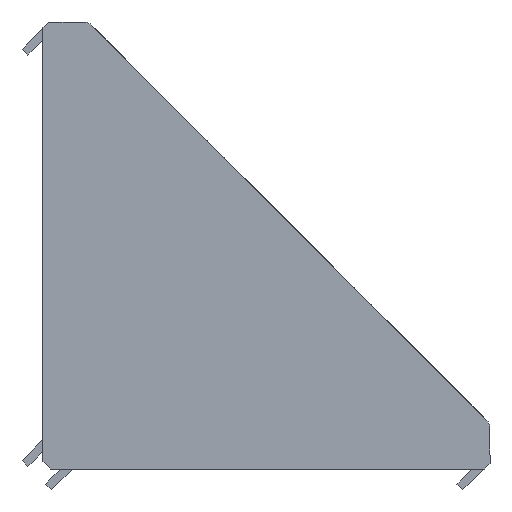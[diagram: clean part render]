
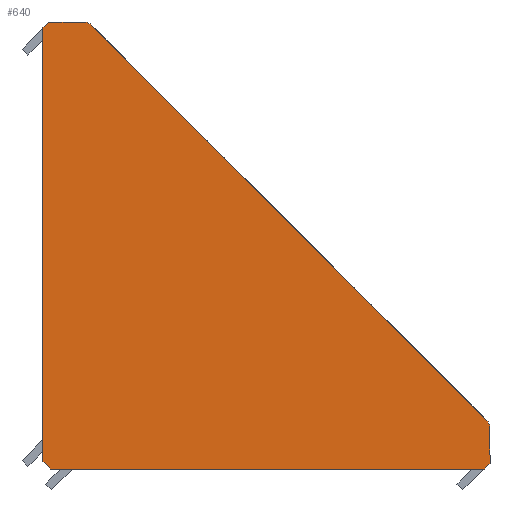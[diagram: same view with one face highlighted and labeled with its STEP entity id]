
A CAD part, left-side view. The second image highlights one B-rep face of the part: STEP entity #640.
In plain terms, the highlighted planar face has unit normal (-1, 0, 0).
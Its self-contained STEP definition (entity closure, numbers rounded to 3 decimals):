
#38 = CARTESIAN_POINT ( 'NONE',  ( -44., 74.046, 86. ) ) ;
#60 = CARTESIAN_POINT ( 'NONE',  ( -44., 74.046, 86. ) ) ;
#144 = VERTEX_POINT ( 'NONE', #1958 ) ;
#178 = VERTEX_POINT ( 'NONE', #2473 ) ;
#234 = ORIENTED_EDGE ( 'NONE', *, *, #5021, .T. ) ;
#381 = LINE ( 'NONE', #2016, #4941 ) ;
#403 = CARTESIAN_POINT ( 'NONE',  ( -44., 74.046, 0. ) ) ;
#405 = LINE ( 'NONE', #4478, #3249 ) ;
#618 = DIRECTION ( 'NONE',  ( 0., -0.707, 0.707 ) ) ;
#640 = ADVANCED_FACE ( 'NONE', ( #954 ), #4268, .T. ) ;
#709 = DIRECTION ( 'NONE',  ( 0., 0.707, -0.707 ) ) ;
#712 = VECTOR ( 'NONE', #4483, 1000. ) ;
#756 = EDGE_CURVE ( 'NONE', #2766, #144, #5085, .T. ) ;
#825 = VECTOR ( 'NONE', #4975, 1000. ) ;
#849 = VECTOR ( 'NONE', #4378, 1000. ) ;
#921 = DIRECTION ( 'NONE',  ( -1., 0., 0. ) ) ;
#950 = EDGE_CURVE ( 'NONE', #2067, #3358, #1365, .T. ) ;
#954 = FACE_OUTER_BOUND ( 'NONE', #4608, .T. ) ;
#987 = AXIS2_PLACEMENT_3D ( 'NONE', #1810, #1007, #2649 ) ;
#1007 = DIRECTION ( 'NONE',  ( 1., 0., 0. ) ) ;
#1110 = CARTESIAN_POINT ( 'NONE',  ( -44., -3.445, 9.338 ) ) ;
#1112 = LINE ( 'NONE', #4781, #3857 ) ;
#1200 = EDGE_CURVE ( 'NONE', #2950, #2067, #4178, .T. ) ;
#1291 = VERTEX_POINT ( 'NONE', #1863 ) ;
#1302 = VECTOR ( 'NONE', #618, 1000. ) ;
#1326 = DIRECTION ( 'NONE',  ( 0., 0., -1. ) ) ;
#1350 = DIRECTION ( 'NONE',  ( -1., 0., 0. ) ) ;
#1351 = CARTESIAN_POINT ( 'NONE',  ( -44., -4.03, 1.147 ) ) ;
#1365 = LINE ( 'NONE', #3013, #1302 ) ;
#1472 = ORIENTED_EDGE ( 'NONE', *, *, #3155, .T. ) ;
#1548 = ORIENTED_EDGE ( 'NONE', *, *, #5320, .T. ) ;
#1755 = EDGE_CURVE ( 'NONE', #144, #1291, #3674, .T. ) ;
#1757 = ORIENTED_EDGE ( 'NONE', *, *, #3387, .F. ) ;
#1810 = CARTESIAN_POINT ( 'NONE',  ( -44., 74.046, 84. ) ) ;
#1863 = CARTESIAN_POINT ( 'NONE',  ( -44., 72.631, 85.414 ) ) ;
#1958 = CARTESIAN_POINT ( 'NONE',  ( -44., -3.445, 9.338 ) ) ;
#2016 = CARTESIAN_POINT ( 'NONE',  ( -44., 81.97, 84. ) ) ;
#2067 = VERTEX_POINT ( 'NONE', #2397 ) ;
#2285 = EDGE_CURVE ( 'NONE', #178, #3747, #381, .T. ) ;
#2397 = CARTESIAN_POINT ( 'NONE',  ( -44., -2.883, 0. ) ) ;
#2473 = CARTESIAN_POINT ( 'NONE',  ( -44., 81.97, 84.853 ) ) ;
#2595 = ORIENTED_EDGE ( 'NONE', *, *, #1200, .T. ) ;
#2600 = AXIS2_PLACEMENT_3D ( 'NONE', #4621, #1350, #1326 ) ;
#2649 = DIRECTION ( 'NONE',  ( 0., 0., 1. ) ) ;
#2671 = CARTESIAN_POINT ( 'NONE',  ( -44., 81.97, 1.414 ) ) ;
#2673 = AXIS2_PLACEMENT_3D ( 'NONE', #4158, #921, #4208 ) ;
#2719 = ORIENTED_EDGE ( 'NONE', *, *, #756, .T. ) ;
#2766 = VERTEX_POINT ( 'NONE', #5050 ) ;
#2850 = ORIENTED_EDGE ( 'NONE', *, *, #1755, .T. ) ;
#2950 = VERTEX_POINT ( 'NONE', #4354 ) ;
#3013 = CARTESIAN_POINT ( 'NONE',  ( -44., -2.883, 0. ) ) ;
#3089 = ORIENTED_EDGE ( 'NONE', *, *, #2285, .T. ) ;
#3155 = EDGE_CURVE ( 'NONE', #4356, #4958, #3307, .T. ) ;
#3249 = VECTOR ( 'NONE', #3290, 1000. ) ;
#3290 = DIRECTION ( 'NONE',  ( 0., 0., 1. ) ) ;
#3307 = LINE ( 'NONE', #60, #825 ) ;
#3358 = VERTEX_POINT ( 'NONE', #1351 ) ;
#3387 = EDGE_CURVE ( 'NONE', #4356, #1291, #3751, .T. ) ;
#3671 = DIRECTION ( 'NONE',  ( 0., 0., -1. ) ) ;
#3674 = LINE ( 'NONE', #1110, #712 ) ;
#3747 = VERTEX_POINT ( 'NONE', #2671 ) ;
#3751 = CIRCLE ( 'NONE', #987, 2. ) ;
#3764 = ORIENTED_EDGE ( 'NONE', *, *, #950, .T. ) ;
#3857 = VECTOR ( 'NONE', #709, 1000. ) ;
#3972 = LINE ( 'NONE', #5076, #849 ) ;
#4150 = VECTOR ( 'NONE', #5330, 1000. ) ;
#4158 = CARTESIAN_POINT ( 'NONE',  ( -44., -2.03, 7.924 ) ) ;
#4178 = LINE ( 'NONE', #403, #4150 ) ;
#4208 = DIRECTION ( 'NONE',  ( 0., 0., 1. ) ) ;
#4268 = PLANE ( 'NONE',  #2600 ) ;
#4310 = EDGE_CURVE ( 'NONE', #3358, #2766, #405, .T. ) ;
#4354 = CARTESIAN_POINT ( 'NONE',  ( -44., 80.555, 0. ) ) ;
#4356 = VERTEX_POINT ( 'NONE', #38 ) ;
#4377 = CARTESIAN_POINT ( 'NONE',  ( -44., 80.822, 86. ) ) ;
#4378 = DIRECTION ( 'NONE',  ( 0., -0.707, -0.707 ) ) ;
#4478 = CARTESIAN_POINT ( 'NONE',  ( -44., -4.03, 84. ) ) ;
#4483 = DIRECTION ( 'NONE',  ( 0., 0.707, 0.707 ) ) ;
#4608 = EDGE_LOOP ( 'NONE', ( #2719, #2850, #1757, #1472, #234, #3089, #1548, #2595, #3764, #4693 ) ) ;
#4621 = CARTESIAN_POINT ( 'NONE',  ( -44., 74.046, 84. ) ) ;
#4693 = ORIENTED_EDGE ( 'NONE', *, *, #4310, .T. ) ;
#4781 = CARTESIAN_POINT ( 'NONE',  ( -44., 80.822, 86. ) ) ;
#4941 = VECTOR ( 'NONE', #3671, 1000. ) ;
#4958 = VERTEX_POINT ( 'NONE', #4377 ) ;
#4975 = DIRECTION ( 'NONE',  ( 0., 1., 0. ) ) ;
#5021 = EDGE_CURVE ( 'NONE', #4958, #178, #1112, .T. ) ;
#5050 = CARTESIAN_POINT ( 'NONE',  ( -44., -4.03, 7.924 ) ) ;
#5076 = CARTESIAN_POINT ( 'NONE',  ( -44., 81.97, 1.414 ) ) ;
#5085 = CIRCLE ( 'NONE', #2673, 2. ) ;
#5320 = EDGE_CURVE ( 'NONE', #3747, #2950, #3972, .T. ) ;
#5330 = DIRECTION ( 'NONE',  ( 0., -1., 0. ) ) ;
